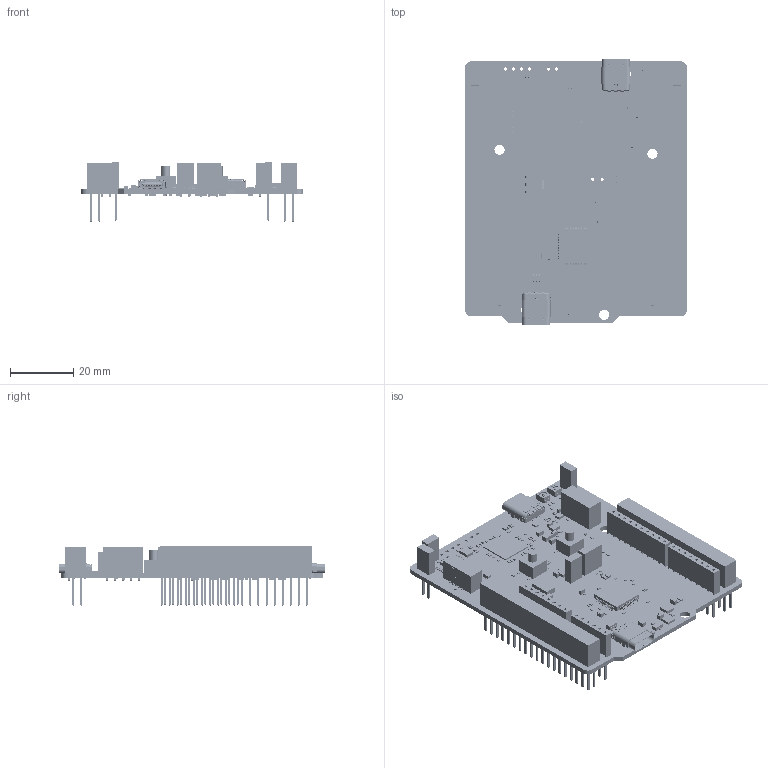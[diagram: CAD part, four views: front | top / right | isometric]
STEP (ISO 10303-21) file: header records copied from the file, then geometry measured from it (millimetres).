
FILE_DESCRIPTION(('Open CASCADE Model'),'2;1');
FILE_NAME('Open CASCADE Shape Model','2022-11-28T15:50:10',('Author'),( 'Open CASCADE'),'Open CASCADE STEP processor 7.5','Open CASCADE 7.5' ,'Unknown');
FILE_SCHEMA(('AUTOMOTIVE_DESIGN { 1 0 10303 214 1 1 1 1 }'));
Length unit declared in the file: millimetre
Products named in the file (410): PCB; Board; Open CASCADE STEP translator 7.5 1.1.1; U18; SOT23-6; 5989290336; Extruded; CN1; c12401826; MSBR-3; MSBR-2; MSBR-1; _12401826E412A_ASM_ASM; CN3; R100; R0402; 5988878032; SB41; R0603; 5989291616; R37; 5988877632; R31; R27; R21; R24; R22; CN11; TSW-102-09-G-S; _TSW-102-09-G-S_body; _T-1S6-09-TSW-1-09-2-S; 5988879952; CN12; R11; R10; R9; R33; R3; C2; C0402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
Assembly tree (965 placements, depth 4):
  PCB
    Board
      Open CASCADE STEP translator 7.5 1.1.1
    U18
      SOT23-6
      5989290336
        Extruded
    CN1
      c12401826
        MSBR-3
        MSBR-2
        MSBR-1
        _12401826E412A_ASM_ASM
    CN3
      c12401826
        MSBR-3
        MSBR-2
        MSBR-1
        _12401826E412A_ASM_ASM
    R100
      R0402
      5988878032
        Extruded
    SB41
      R0603
      5989291616
        Extruded
    R37
      R0402
      5988877632
        Extruded
    R31
      R0402
      5988877632
        Extruded
    R27
      R0402
      5988877632
        Extruded
    R21
      R0402
      5988877632
        Extruded
    R24
      R0402
      5988877632
        Extruded
    R22
      R0402
      5988877632
        Extruded
    CN11
      TSW-102-09-G-S
        _TSW-102-09-G-S_body
        _T-1S6-09-TSW-1-09-2-S
      5988879952
        Extruded
    CN12
      TSW-102-09-G-S
        _TSW-102-09-G-S_body
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Bounding box: 70 x 84.21 x 18.67 mm (x, y, z)
Volume: 19262.7 mm3; surface area: 34849.3 mm2
Topology: 900 solids, 939 shells, 39582 faces, 96287 edges, 57060 vertices
Faces by surface type: plane 20026, cylinder 9579, bspline 5682, sphere 3100, torus 641, revolution 402, cone 152
Full cylindrical faces by diameter (mm): 0.26 x1, 0.3 x1, 0.4 x4, 0.5 x1, 0.65 x2, 0.8 x1, 0.97 x2, 1 x139, 1.19 x2, 3.2 x3
Entity records: 384830 total; most frequent: CARTESIAN_POINT 71614, ORIENTED_EDGE 52672, DIRECTION 50510, EDGE_CURVE 26338, LINE 22144, VECTOR 22144, VERTEX_POINT 16827, AXIS2_PLACEMENT_3D 14178
